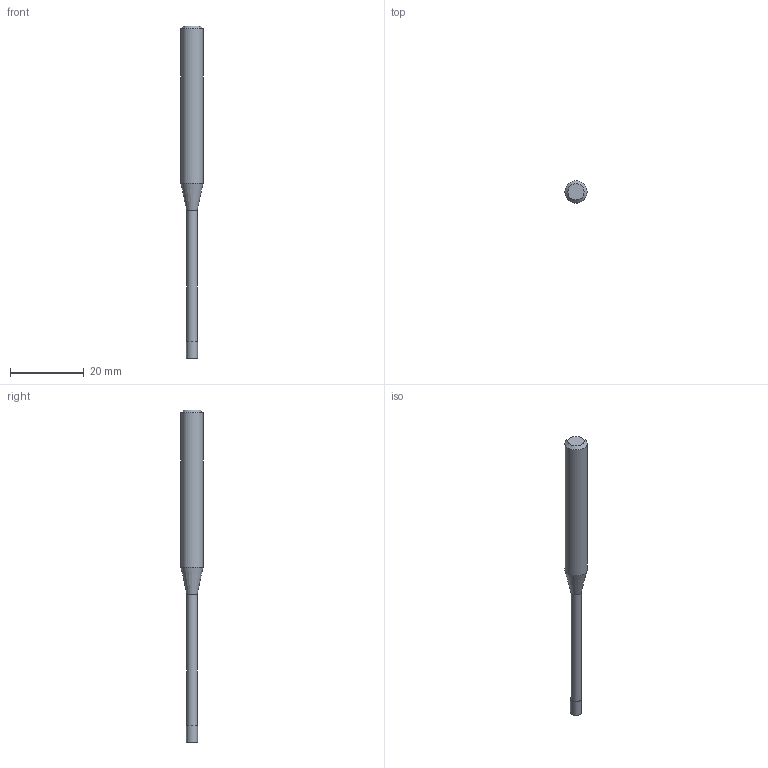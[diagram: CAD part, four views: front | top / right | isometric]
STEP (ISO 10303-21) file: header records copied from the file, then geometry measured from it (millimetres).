
FILE_DESCRIPTION((''),'2;1');
FILE_NAME('C:\Users\nsx150\AppData\Local\Temp\Mastercam 2021\17T8Q8S9EB\TEMP.step','2021-04-21T14:28:35',(''),(''),'STEP Write','Mastercam 2021 ... CNC Software, Inc.','');
FILE_SCHEMA(('AUTOMOTIVE_DESIGN'));
Length unit declared in the file: millimetre
Products named in the file (1): None
Bounding box: 6 x 6 x 90 mm (x, y, z)
Volume: 1575.8 mm3; surface area: 1307.5 mm2
Topology: 2 solids, 2 shells, 9 faces, 12 edges, 7 vertices
Faces by surface type: plane 4, cylinder 3, cone 2
Full cylindrical faces by diameter (mm): 2.85 x1, 3 x1, 6 x1
Entity records: 211 total; most frequent: DIRECTION 36, CARTESIAN_POINT 25, AXIS2_PLACEMENT_3D 18, ORIENTED_EDGE 14, EDGE_LOOP 14, STYLED_ITEM 12, ADVANCED_FACE 9, FACE_BOUND 8
